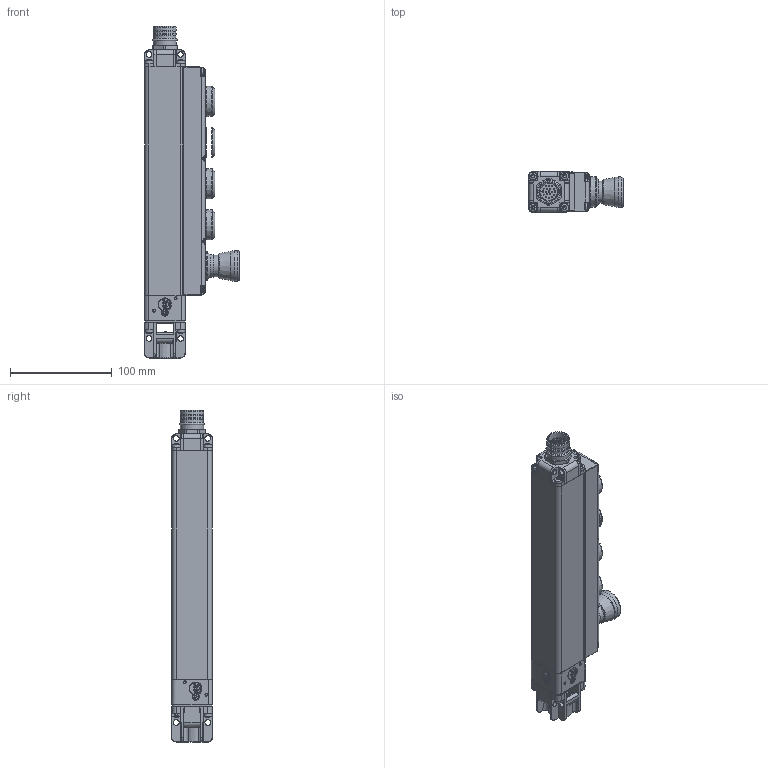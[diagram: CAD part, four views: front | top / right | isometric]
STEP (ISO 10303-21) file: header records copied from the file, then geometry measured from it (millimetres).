
FILE_DESCRIPTION(/* description */ (''),/* implementation_level */ '2;1');
FILE_NAME(/* name */ '2037980_A_PSENmg1-B-xxxxx-Lxxx-Ux-D.stp',/* time_stamp */ '2025-07-18T07:21:20+02:00',/* author */ ('p.rimml'),/* organization */ (''),/* preprocessor_version */ 'ST-DEVELOPER v20',/* originating_system */ 'Autodesk Inventor 2024',/* authorisation */ '');
FILE_SCHEMA (('AUTOMOTIVE_DESIGN { 1 0 10303 214 3 1 1 }'));
Products named in the file (1): 2037980
Bounding box: 93.5 x 40 x 326.9 mm (x, y, z)
Volume: 657477.4 mm3; surface area: 87782.4 mm2
Topology: 1 solids, 1 shells, 2036 faces, 5124 edges, 3130 vertices
Faces by surface type: cylinder 690, plane 458, bspline 333, cone 276, torus 203, sphere 76
Full cylindrical faces by diameter (mm): 1 x16, 1.5 x3, 2.693 x3, 3.1 x3, 5.5 x11, 8.2 x4, 9 x1, 10 x1, 12 x1, 12.15 x1, 16.1 x1, 19.85 x4, 20 x1, 21.5 x1, 21.7 x3, 22.2 x1, 22.55 x1, 22.642 x4, 22.8 x4, 28 x1, 28.2 x1, 28.6 x4, 29.2 x4
Entity records: 77137 total; most frequent: CARTESIAN_POINT 30391, ORIENTED_EDGE 10146, DIRECTION 9286, EDGE_CURVE 5073, AXIS2_PLACEMENT_3D 3760, VERTEX_POINT 3130, EDGE_LOOP 2165, FACE_OUTER_BOUND 2036
